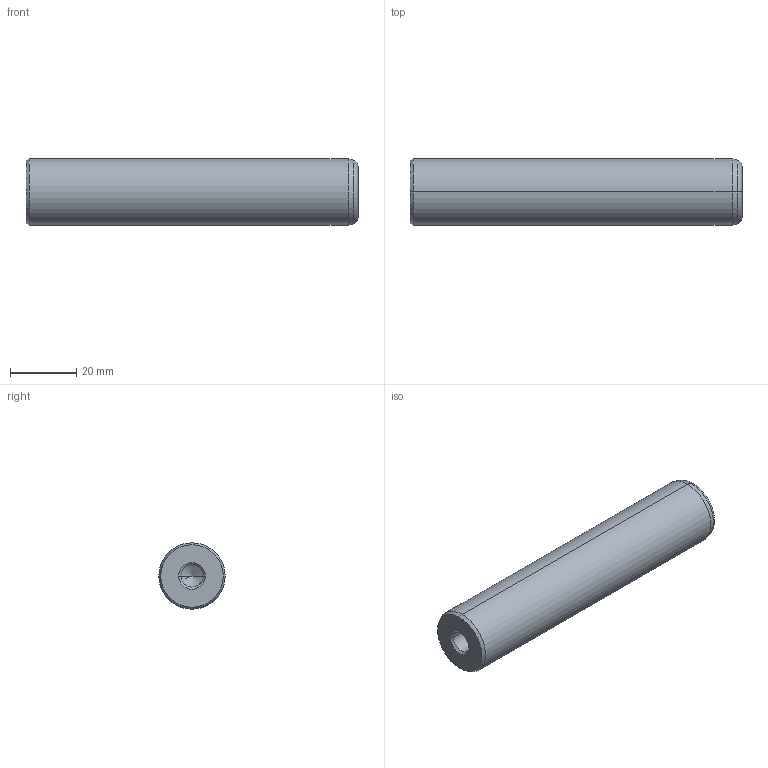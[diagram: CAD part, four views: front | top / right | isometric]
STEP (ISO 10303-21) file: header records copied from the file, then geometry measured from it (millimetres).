
FILE_DESCRIPTION(('CATIA V5 STEP Exchange'),'2;1');
FILE_NAME('C:\Users\Utente\Desktop\IO LAVORO\3D X SITO CF\X SITO\720\720-20x100.stp','2021-01-01T13:03:04+00:00',('none'),('none'),'CATIA Version 5 Release 20 GA (IN-10)','CATIA V5 STEP AP203','none');
FILE_SCHEMA(('CONFIG_CONTROL_DESIGN'));
Length unit declared in the file: millimetre
Products named in the file (1): 720-20x100
Bounding box: 100 x 20 x 20 mm (x, y, z)
Volume: 29578.8 mm3; surface area: 7804.7 mm2
Topology: 1 solids, 1 shells, 22 faces, 62 edges, 40 vertices
Faces by surface type: cone 12, cylinder 6, plane 2, torus 2
Entity records: 800 total; most frequent: CARTESIAN_POINT 223, ORIENTED_EDGE 116, DIRECTION 93, EDGE_CURVE 58, AXIS2_PLACEMENT_3D 54, VERTEX_POINT 40, CIRCLE 31, EDGE_LOOP 24
